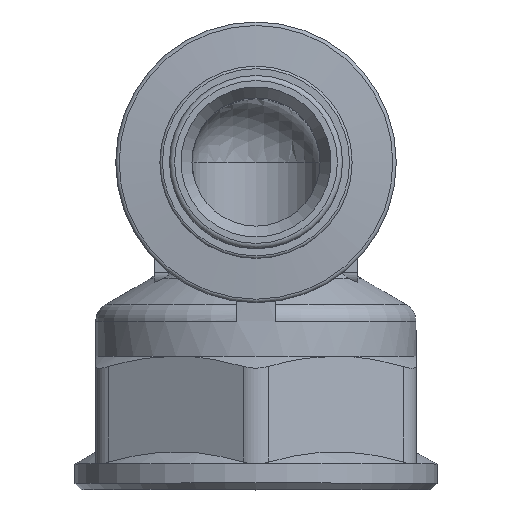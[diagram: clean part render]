
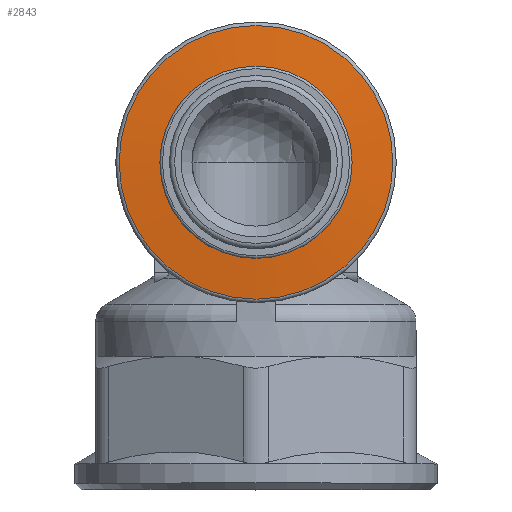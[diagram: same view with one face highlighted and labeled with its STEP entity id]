
A CAD part, top view. The second image highlights one B-rep face of the part: STEP entity #2843.
In plain terms, the highlighted conical face has half-angle 85 degrees and reference radius 8.995 mm.
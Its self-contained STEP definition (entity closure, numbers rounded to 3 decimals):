
#2843=ADVANCED_FACE('',(#5287,#5289),#5291,.T.);
#5287=FACE_OUTER_BOUND('',#5288,.T.);
#5288=EDGE_LOOP('',(#7775));
#5289=FACE_OUTER_BOUND('',#5290,.T.);
#5290=EDGE_LOOP('',(#7776));
#5291=CONICAL_SURFACE('',#5292,8.994,1.484);
#5292=AXIS2_PLACEMENT_3D('',#5293,#5294,#5295);
#5293=CARTESIAN_POINT('',(0.,0.,23.071));
#5294=DIRECTION('',(0.,0.,-1.));
#5295=DIRECTION('',(0.,-1.,0.));
#7775=ORIENTED_EDGE('',*,*,#8710,.T.);
#7776=ORIENTED_EDGE('',*,*,#8712,.T.);
#8710=EDGE_CURVE('',#10173,#10173,#10174,.T.);
#8712=EDGE_CURVE('',#10177,#10177,#10178,.F.);
#10173=VERTEX_POINT('',#14890);
#10174=CIRCLE('',#14891,10.676);
#10177=VERTEX_POINT('',#14900);
#10178=CIRCLE('',#14901,7.313);
#14890=CARTESIAN_POINT('',(0.,10.676,22.924));
#14891=AXIS2_PLACEMENT_3D('',#14892,#14893,#14894);
#14892=CARTESIAN_POINT('',(0.,0.,22.924));
#14893=DIRECTION('',(0.,0.,1.));
#14894=DIRECTION('',(0.,1.,0.));
#14900=CARTESIAN_POINT('',(0.,7.313,23.218));
#14901=AXIS2_PLACEMENT_3D('',#14902,#14903,#14904);
#14902=CARTESIAN_POINT('',(0.,0.,23.218));
#14903=DIRECTION('',(0.,0.,1.));
#14904=DIRECTION('',(0.,1.,0.));
